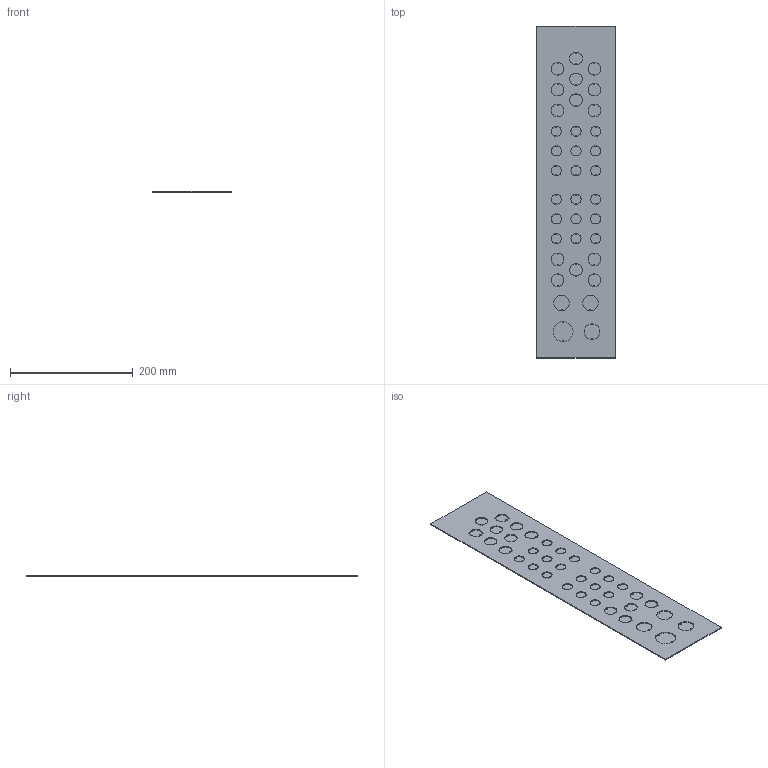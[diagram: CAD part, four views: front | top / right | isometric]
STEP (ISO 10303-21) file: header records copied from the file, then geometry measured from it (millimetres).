
FILE_DESCRIPTION( ( 'STEP AP214' ), '1' );
FILE_NAME( 'p:/temp/worker_97/temp/exporttempdir_4644_325_DZWyD/format_0/AFK42R5(0).stp', '2021-03-15T12:47:58', ( 'License CC BY-ND 4.0' ), ( 'CADENAS' ), ' ', 'PARTsolutions', ' ' );
FILE_SCHEMA( ( 'AUTOMOTIVE_DESIGN { 1 0 10303 214 1 1 1 1 }' ) );
Length unit declared in the file: millimetre
Products named in the file (1): _AFK42R5(0)
Bounding box: 128 x 542 x 2.7 mm (x, y, z)
Volume: 105312.6 mm3; surface area: 147266.7 mm2
Topology: 1 solids, 1 shells, 402 faces, 984 edges, 656 vertices
Faces by surface type: plane 222, cylinder 180
Full cylindrical faces by diameter (mm): 19.5 x18, 23.5 x14, 28.5 x3, 35.5 x1
Entity records: 14980 total; most frequent: DIRECTION 2114, CARTESIAN_POINT 2007, ORIENTED_EDGE 1896, EDGE_CURVE 948, AXIS2_PLACEMENT_3D 763, VERTEX_POINT 656, LINE 588, VECTOR 588
